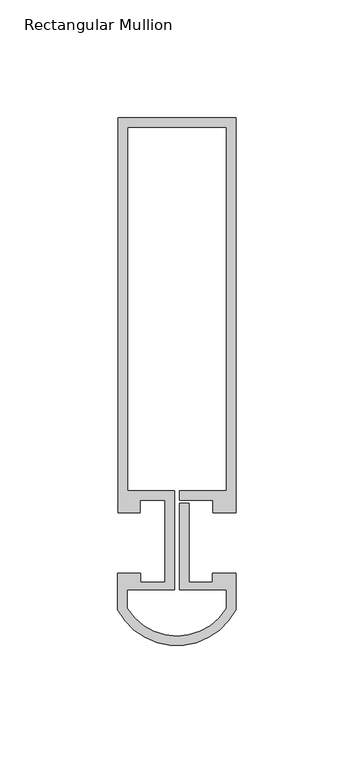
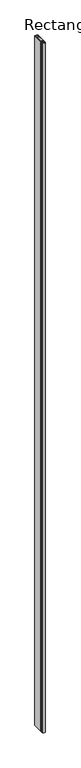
"""IFC4 building model written with IfcOpenShell, lengths in millimetres: member geometry, Rectangular Mullion : Reynaers_CW-50_Transom-Transom_Horizontal_167.5mm_Facecap-07."""

from ifc_helpers import new_model, si_unit, point, frame, frame_2d, origin, place, context, project, spatial, polyline, circle_curve, trimmed, segment, composite_curve, outline, extrude, source, transform, mapped, element, save


def rectangular_mullion_6f4a11ca(model_context):
    return source(origin(), model_context, "Body", "SweptSolid", [
        extrude(outline(composite_curve([segment(polyline([(25.1995941, 12.7331291), (15.499, 12.7331291), (15.499, 18.1331291), (1.2995941, 18.1331291), (1.2995941, 22.1331291), (21.1995941, 22.1331291), (21.1995941, 176.2331291), (-20.8004059, 176.2331291), (-20.8004059, 22.1331291), (-0.9004059, 22.1331291), (-0.9004059, -19.7331291), (-20.960579, -19.7331291), (-20.960579, -27.7331291)]), True, "CONTINUOUS"), segment(trimmed(circle_curve(frame_2d((0.1195075, -14.5934909)), 24.8398901), [point((-20.960579, -27.7331291))], [point((21.1995941, -27.7331291))], True, "CARTESIAN"), True, "CONTINUOUS"), segment(polyline([(21.1995941, -27.7331291), (21.1995941, -19.7331291), (1.2995941, -19.7331291), (1.2995941, 16.7615089), (5.2995941, 16.7615089), (5.2995941, -16.7331291), (15.2996495, -16.7331291), (15.2996495, -12.7331291), (25.1995941, -12.7331291), (25.1995941, -28.2927678)]), True, "CONTINUOUS"), segment(trimmed(circle_curve(frame_2d((0.1195075, -15.0907737)), 28.3426074), [point((25.1995941, -28.2927678))], [point((-24.960579, -28.2927678))], False, "CARTESIAN"), True, "CONTINUOUS"), segment(polyline([(-24.960579, -28.2927678), (-24.960579, -12.7331291), (-15.2996495, -12.7331291), (-15.2996495, -16.7331291), (-4.9004059, -16.7331291), (-4.9004059, 18.1331291), (-15.499, 18.1331291), (-15.499, 12.7331291), (-24.8004059, 12.7331291), (-24.8004059, 180.2331291), (25.1995941, 180.2331291), (25.1995941, 12.7331291)]), True, "CONTINUOUS")], self_intersect=False)), frame((0.0, 0.0, -12000.0), z_axis=(0.0, 0.0, 1.0), x_axis=(1.0, 0.0, 0.0)), (0.0, 0.0, 1.0), 12000.0),
    ])


if __name__ == "__main__":
    model = new_model("IFC4")
    model_context = context("Model", 3, world=origin())
    ifc_project = project(units=[si_unit("LENGTHUNIT", "METRE", prefix="MILLI")], contexts=[model_context])
    site = spatial("IfcSite", under=ifc_project)
    building = spatial("IfcBuilding", under=site)
    placement = place(None, origin())
    rectangular_mullion_shape = rectangular_mullion_6f4a11ca(model_context)
    element("IfcMember", 1, ObjectType="Rectangular Mullion : Reynaers_CW-50_Transom-Transom_Horizontal_167.5mm_Facecap-07", at=placement, inside=building, context=model_context, shape_type="MappedRepresentation", body=[
        mapped(rectangular_mullion_shape, transform((0.0, 0.0, 0.0), x_axis=(1.0, 0.0, 0.0), y_axis=(0.0, 1.0, 0.0), z_axis=(0.0, 0.0, 1.0))),
    ])
    save(model, "model.ifc")
